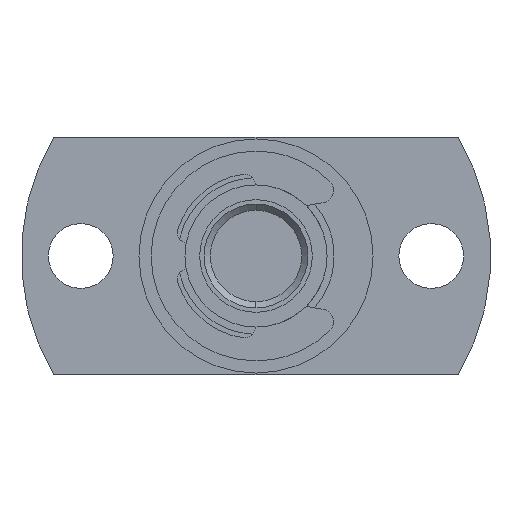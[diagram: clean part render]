
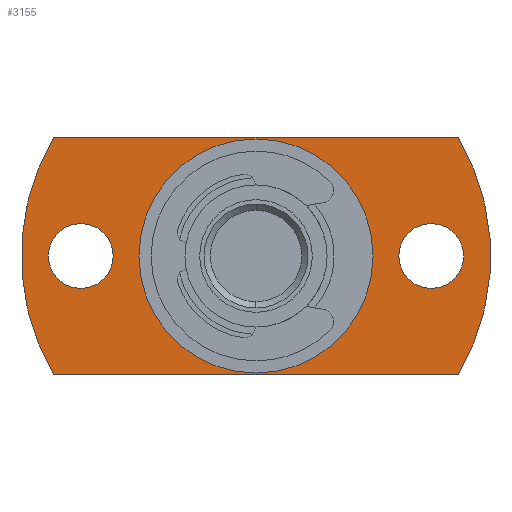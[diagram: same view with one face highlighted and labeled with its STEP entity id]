
A CAD part, left-side view. The second image highlights one B-rep face of the part: STEP entity #3155.
In plain terms, the highlighted planar face has unit normal (-1, 0, 0).
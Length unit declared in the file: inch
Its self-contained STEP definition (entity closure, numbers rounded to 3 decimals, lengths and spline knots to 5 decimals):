
#12 = DIRECTION ( 'NONE',  ( 0., 0., -1. ) ) ;
#60 = EDGE_LOOP ( 'NONE', ( #1234, #390 ) ) ;
#64 = ORIENTED_EDGE ( 'NONE', *, *, #3146, .T. ) ;
#126 = DIRECTION ( 'NONE',  ( -1., 0., 0. ) ) ;
#135 = DIRECTION ( 'NONE',  ( 0., 0., -1. ) ) ;
#181 = DIRECTION ( 'NONE',  ( 0., 0., 1. ) ) ;
#193 = EDGE_CURVE ( 'NONE', #2319, #2128, #1411, .T. ) ;
#249 = CARTESIAN_POINT ( 'NONE',  ( 0.453, -0.28, 0. ) ) ;
#298 = EDGE_CURVE ( 'NONE', #2859, #1035, #414, .T. ) ;
#345 = AXIS2_PLACEMENT_3D ( 'NONE', #1583, #126, #1831 ) ;
#378 = LINE ( 'NONE', #1530, #1603 ) ;
#390 = ORIENTED_EDGE ( 'NONE', *, *, #193, .T. ) ;
#414 = CIRCLE ( 'NONE', #1588, 0.187 ) ;
#419 = CARTESIAN_POINT ( 'NONE',  ( 0.453, 0., 0. ) ) ;
#498 = CARTESIAN_POINT ( 'NONE',  ( 0.453, -0.28, -0.05175 ) ) ;
#602 = AXIS2_PLACEMENT_3D ( 'NONE', #3044, #1587, #135 ) ;
#630 = EDGE_LOOP ( 'NONE', ( #802, #667 ) ) ;
#667 = ORIENTED_EDGE ( 'NONE', *, *, #1374, .F. ) ;
#697 = EDGE_LOOP ( 'NONE', ( #64, #2702 ) ) ;
#700 = DIRECTION ( 'NONE',  ( 0., 1., 0. ) ) ;
#713 = CARTESIAN_POINT ( 'NONE',  ( 0.453, 0.187, -0.19 ) ) ;
#731 = EDGE_LOOP ( 'NONE', ( #895, #1807, #2581, #1987 ) ) ;
#768 = DIRECTION ( 'NONE',  ( -1., 0., 0. ) ) ;
#802 = ORIENTED_EDGE ( 'NONE', *, *, #298, .F. ) ;
#817 = DIRECTION ( 'NONE',  ( 1., 0., 0. ) ) ;
#822 = CIRCLE ( 'NONE', #345, 0.375 ) ;
#833 = CARTESIAN_POINT ( 'NONE',  ( 0.453, 0.3233, -0.19 ) ) ;
#846 = CARTESIAN_POINT ( 'NONE',  ( 0.453, -0.3233, -0.19 ) ) ;
#895 = ORIENTED_EDGE ( 'NONE', *, *, #2263, .F. ) ;
#916 = CARTESIAN_POINT ( 'NONE',  ( 0.453, 0.187, 0. ) ) ;
#950 = CARTESIAN_POINT ( 'NONE',  ( 0.453, 0.28, 0.05175 ) ) ;
#967 = LINE ( 'NONE', #713, #1608 ) ;
#1033 = AXIS2_PLACEMENT_3D ( 'NONE', #2603, #1153, #2840 ) ;
#1035 = VERTEX_POINT ( 'NONE', #1986 ) ;
#1042 = DIRECTION ( 'NONE',  ( 0., -1., 0. ) ) ;
#1062 = FACE_OUTER_BOUND ( 'NONE', #731, .T. ) ;
#1153 = DIRECTION ( 'NONE',  ( 1., 0., 0. ) ) ;
#1156 = AXIS2_PLACEMENT_3D ( 'NONE', #2213, #768, #2462 ) ;
#1167 = DIRECTION ( 'NONE',  ( 0., 0., -1. ) ) ;
#1223 = EDGE_CURVE ( 'NONE', #1813, #2202, #822, .T. ) ;
#1234 = ORIENTED_EDGE ( 'NONE', *, *, #1835, .T. ) ;
#1326 = AXIS2_PLACEMENT_3D ( 'NONE', #249, #1702, #12 ) ;
#1374 = EDGE_CURVE ( 'NONE', #1035, #2859, #2212, .T. ) ;
#1383 = CARTESIAN_POINT ( 'NONE',  ( 0.453, 0., 0. ) ) ;
#1387 = PLANE ( 'NONE',  #2497 ) ;
#1401 = CIRCLE ( 'NONE', #1156, 0.375 ) ;
#1411 = CIRCLE ( 'NONE', #1326, 0.05175 ) ;
#1530 = CARTESIAN_POINT ( 'NONE',  ( 0.453, 0.187, 0.19 ) ) ;
#1583 = CARTESIAN_POINT ( 'NONE',  ( 0.453, 0., 0. ) ) ;
#1587 = DIRECTION ( 'NONE',  ( 1., 0., 0. ) ) ;
#1588 = AXIS2_PLACEMENT_3D ( 'NONE', #419, #1892, #181 ) ;
#1603 = VECTOR ( 'NONE', #1042, 39.37008 ) ;
#1608 = VECTOR ( 'NONE', #700, 39.37008 ) ;
#1630 = DIRECTION ( 'NONE',  ( 0., 0., 1. ) ) ;
#1702 = DIRECTION ( 'NONE',  ( 1., 0., 0. ) ) ;
#1706 = CIRCLE ( 'NONE', #1033, 0.05175 ) ;
#1807 = ORIENTED_EDGE ( 'NONE', *, *, #2771, .T. ) ;
#1813 = VERTEX_POINT ( 'NONE', #846 ) ;
#1831 = DIRECTION ( 'NONE',  ( 0., 0., 1. ) ) ;
#1835 = EDGE_CURVE ( 'NONE', #2128, #2319, #2897, .T. ) ;
#1892 = DIRECTION ( 'NONE',  ( -1., 0., 0. ) ) ;
#1984 = VERTEX_POINT ( 'NONE', #950 ) ;
#1985 = EDGE_CURVE ( 'NONE', #1813, #2902, #967, .T. ) ;
#1986 = CARTESIAN_POINT ( 'NONE',  ( 0.453, 0., -0.187 ) ) ;
#1987 = ORIENTED_EDGE ( 'NONE', *, *, #1223, .T. ) ;
#2065 = CARTESIAN_POINT ( 'NONE',  ( 0.453, 0.3233, 0.19 ) ) ;
#2128 = VERTEX_POINT ( 'NONE', #498 ) ;
#2202 = VERTEX_POINT ( 'NONE', #2725 ) ;
#2212 = CIRCLE ( 'NONE', #2293, 0.187 ) ;
#2213 = CARTESIAN_POINT ( 'NONE',  ( 0.453, 0., 0. ) ) ;
#2251 = CARTESIAN_POINT ( 'NONE',  ( 0.453, -0.28, 0.05175 ) ) ;
#2260 = CARTESIAN_POINT ( 'NONE',  ( 0.453, 0.28, 0. ) ) ;
#2263 = EDGE_CURVE ( 'NONE', #3065, #2202, #378, .T. ) ;
#2264 = FACE_BOUND ( 'NONE', #630, .T. ) ;
#2293 = AXIS2_PLACEMENT_3D ( 'NONE', #1383, #3091, #1630 ) ;
#2303 = EDGE_CURVE ( 'NONE', #1984, #3011, #2973, .T. ) ;
#2319 = VERTEX_POINT ( 'NONE', #2251 ) ;
#2462 = DIRECTION ( 'NONE',  ( 0., 0., 1. ) ) ;
#2497 = AXIS2_PLACEMENT_3D ( 'NONE', #916, #2611, #1167 ) ;
#2509 = DIRECTION ( 'NONE',  ( 0., 0., -1. ) ) ;
#2545 = CARTESIAN_POINT ( 'NONE',  ( 0.453, 0.28, -0.05175 ) ) ;
#2581 = ORIENTED_EDGE ( 'NONE', *, *, #1985, .F. ) ;
#2603 = CARTESIAN_POINT ( 'NONE',  ( 0.453, 0.28, 0. ) ) ;
#2611 = DIRECTION ( 'NONE',  ( 1., 0., 0. ) ) ;
#2702 = ORIENTED_EDGE ( 'NONE', *, *, #2303, .T. ) ;
#2725 = CARTESIAN_POINT ( 'NONE',  ( 0.453, -0.3233, 0.19 ) ) ;
#2771 = EDGE_CURVE ( 'NONE', #3065, #2902, #1401, .T. ) ;
#2840 = DIRECTION ( 'NONE',  ( 0., 0., -1. ) ) ;
#2851 = AXIS2_PLACEMENT_3D ( 'NONE', #2260, #817, #2509 ) ;
#2859 = VERTEX_POINT ( 'NONE', #2980 ) ;
#2897 = CIRCLE ( 'NONE', #602, 0.05175 ) ;
#2902 = VERTEX_POINT ( 'NONE', #833 ) ;
#2920 = FACE_BOUND ( 'NONE', #60, .T. ) ;
#2973 = CIRCLE ( 'NONE', #2851, 0.05175 ) ;
#2980 = CARTESIAN_POINT ( 'NONE',  ( 0.453, 0., 0.187 ) ) ;
#2999 = FACE_BOUND ( 'NONE', #697, .T. ) ;
#3011 = VERTEX_POINT ( 'NONE', #2545 ) ;
#3044 = CARTESIAN_POINT ( 'NONE',  ( 0.453, -0.28, 0. ) ) ;
#3065 = VERTEX_POINT ( 'NONE', #2065 ) ;
#3091 = DIRECTION ( 'NONE',  ( -1., 0., 0. ) ) ;
#3146 = EDGE_CURVE ( 'NONE', #3011, #1984, #1706, .T. ) ;
#3155 = ADVANCED_FACE ( 'NONE', ( #2920, #2999, #2264, #1062 ), #1387, .F. ) ;
